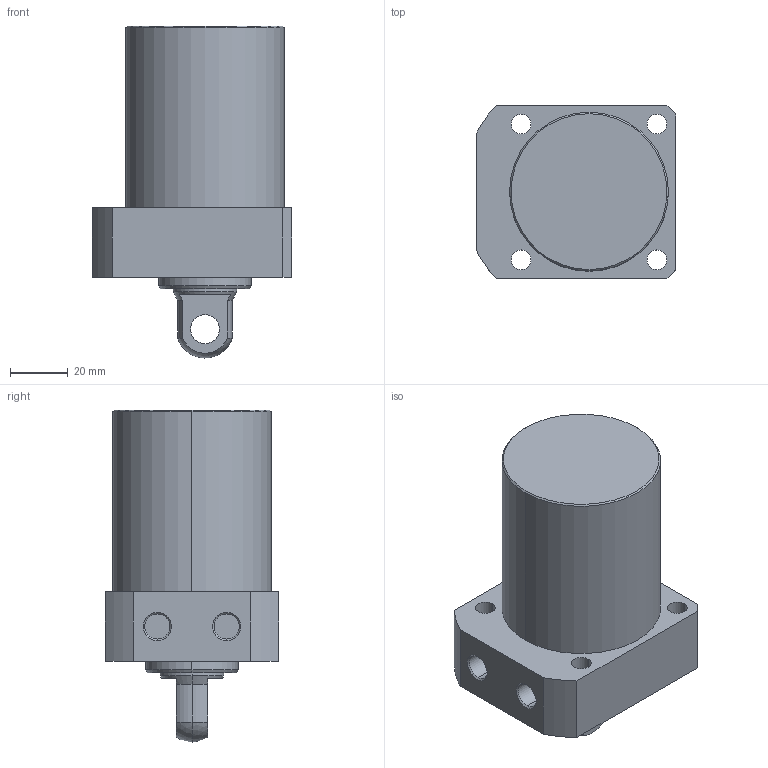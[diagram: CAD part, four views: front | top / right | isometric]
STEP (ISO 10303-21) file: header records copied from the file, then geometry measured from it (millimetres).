
FILE_DESCRIPTION (( 'STEP AP203' ), '1' );
FILE_NAME ('CLLR-055CP-050.STEP', '2019-12-19T08:27:43', ( '' ), ( '' ), 'SwSTEP 2.0', 'SolidWorks 2015', '' );
FILE_SCHEMA (( 'CONFIG_CONTROL_DESIGN' ));
Length unit declared in the file: millimetre
Products named in the file (1): CLLR-055CP-050
Bounding box: 69 x 60 x 115 mm (x, y, z)
Volume: 248926.5 mm3; surface area: 29163.5 mm2
Topology: 1 solids, 1 shells, 59 faces, 139 edges, 89 vertices
Faces by surface type: cylinder 29, plane 18, cone 10, sphere 2
Entity records: 1820 total; most frequent: DIRECTION 329, CARTESIAN_POINT 300, ORIENTED_EDGE 278, EDGE_CURVE 139, AXIS2_PLACEMENT_3D 134, VERTEX_POINT 89, EDGE_LOOP 76, CIRCLE 74
